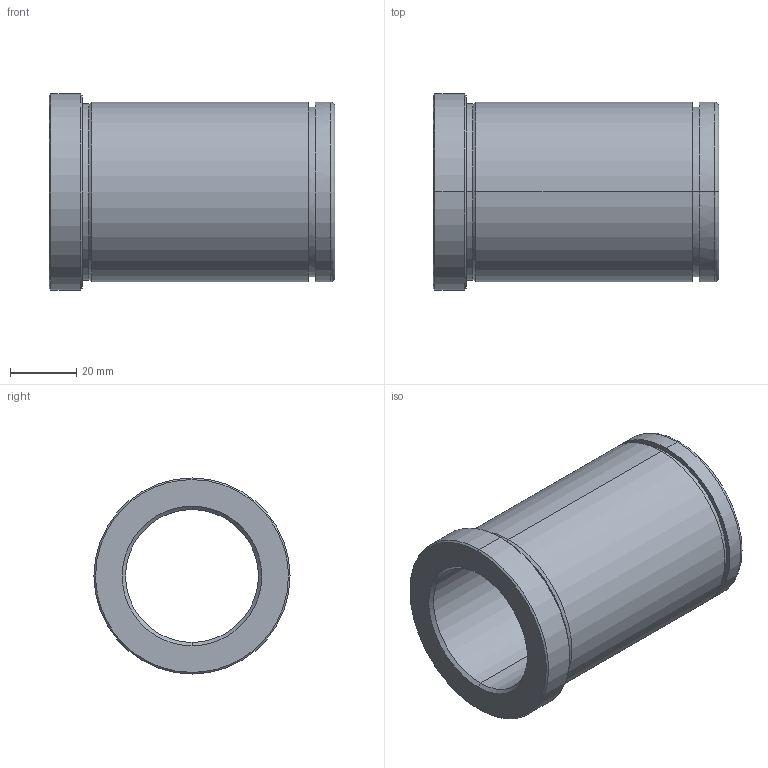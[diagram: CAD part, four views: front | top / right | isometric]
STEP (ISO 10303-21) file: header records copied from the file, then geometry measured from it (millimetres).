
FILE_DESCRIPTION(('CATIA V5 STEP Exchange'),'2;1');
FILE_NAME('C:\Users\Utente\Desktop\IO LAVORO\3D X SITO CF\X SITO\PLASTICA\553\553-40X86.stp','2021-06-03T18:28:04+00:00',('none'),('none'),'CATIA Version 5 Release 20 GA (IN-10)','CATIA V5 STEP AP203','none');
FILE_SCHEMA(('CONFIG_CONTROL_DESIGN'));
Length unit declared in the file: millimetre
Products named in the file (1): 553-40X86
Bounding box: 86 x 59 x 59 mm (x, y, z)
Volume: 92253.9 mm3; surface area: 28680.2 mm2
Topology: 1 solids, 1 shells, 29 faces, 92 edges, 68 vertices
Faces by surface type: cylinder 12, cone 8, plane 5, torus 4
Entity records: 1222 total; most frequent: CARTESIAN_POINT 368, ORIENTED_EDGE 184, DIRECTION 136, EDGE_CURVE 92, AXIS2_PLACEMENT_3D 88, VERTEX_POINT 68, CIRCLE 58, EDGE_LOOP 34
